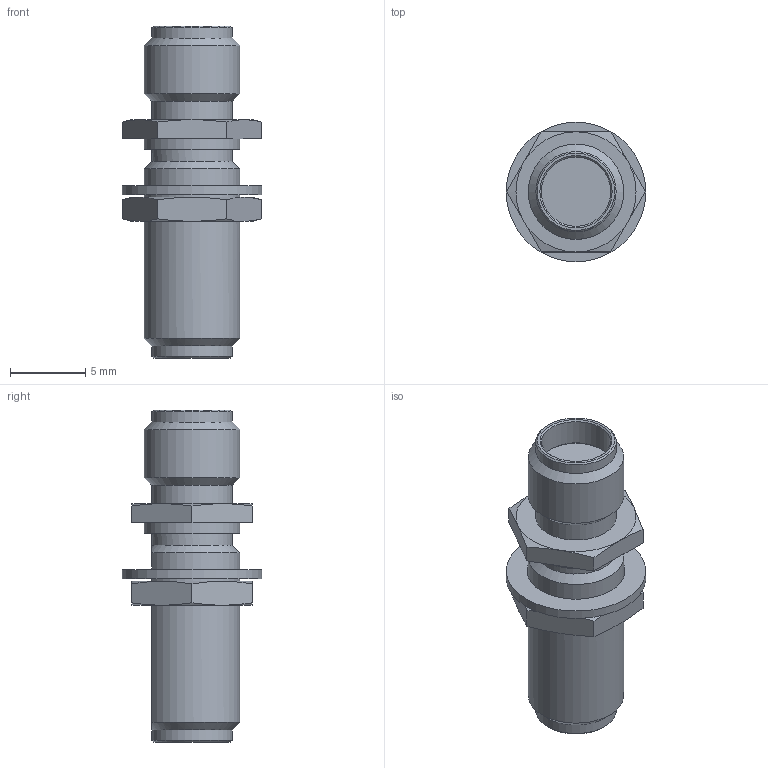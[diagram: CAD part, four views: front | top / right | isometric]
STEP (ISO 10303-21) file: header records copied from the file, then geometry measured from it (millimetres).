
FILE_DESCRIPTION(/* description */ (''),/* implementation_level */ '2;1');
FILE_NAME(/* name */ 'A8052-510_160820.stp',/* time_stamp */ '2016-08-20T11:05:11+09:00',/* author */ (''),/* organization */ (''),/* preprocessor_version */ 'ST-DEVELOPER v11',/* originating_system */ 'SIEMENS UGS NX 6.0',/* authorisation */ '');
FILE_SCHEMA (('CONFIG_CONTROL_DESIGN'));
Length unit declared in the file: millimetre
Products named in the file (1): owne7B056pse
Bounding box: 9.3 x 9.3 x 22.1 mm (x, y, z)
Volume: 667.7 mm3; surface area: 775 mm2
Topology: 2 solids, 2 shells, 67 faces, 146 edges, 90 vertices
Faces by surface type: cone 30, plane 25, cylinder 12
Full cylindrical faces by diameter (mm): 4.61 x2, 5.35 x4, 6.35 x2, 6.539 x1, 9.3 x1
Entity records: 1832 total; most frequent: CARTESIAN_POINT 405, DIRECTION 272, ORIENTED_EDGE 248, EDGE_CURVE 124, AXIS2_PLACEMENT_3D 119, EDGE_LOOP 96, VERTEX_POINT 88, ADVANCED_FACE 67
